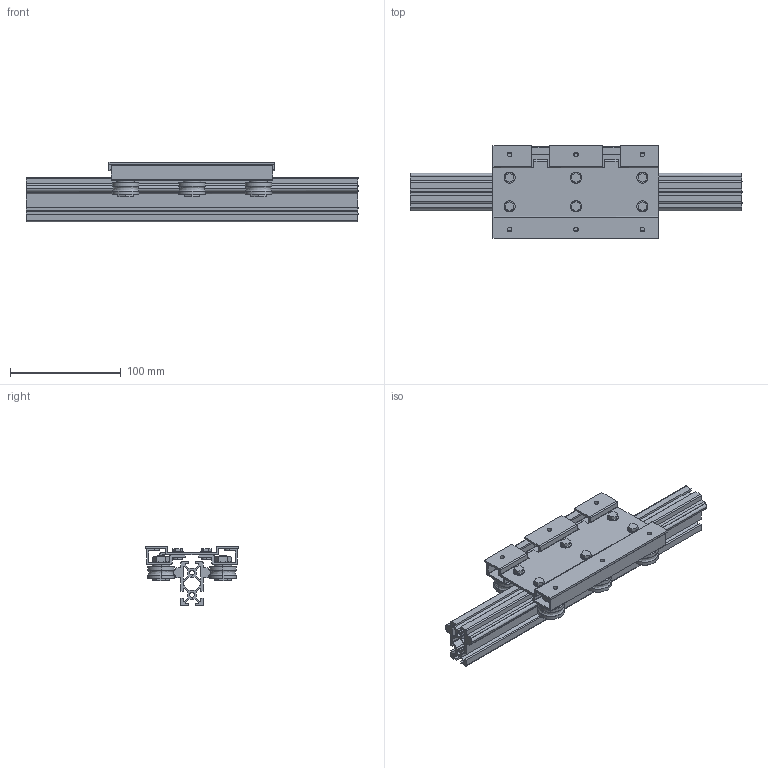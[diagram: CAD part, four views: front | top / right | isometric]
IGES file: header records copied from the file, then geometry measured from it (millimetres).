
Global section: file name: No Iges File Name specified; native system: AutoDesk Inventor R11.0; preprocessor: AutoDesk Inventor Iges Exporter R11.0; author: No Author specified; organization: No Organization specified; date: 20170802.093450; units: millimetre
Bounding box: 300 x 84 x 54 mm (x, y, z)
Surface area: 174263.4 mm2 (no closed solid volume)
Topology: 0 solids, 0 shells, 638 faces, 3816 edges, 3816 vertices
Faces by surface type: bspline 638
